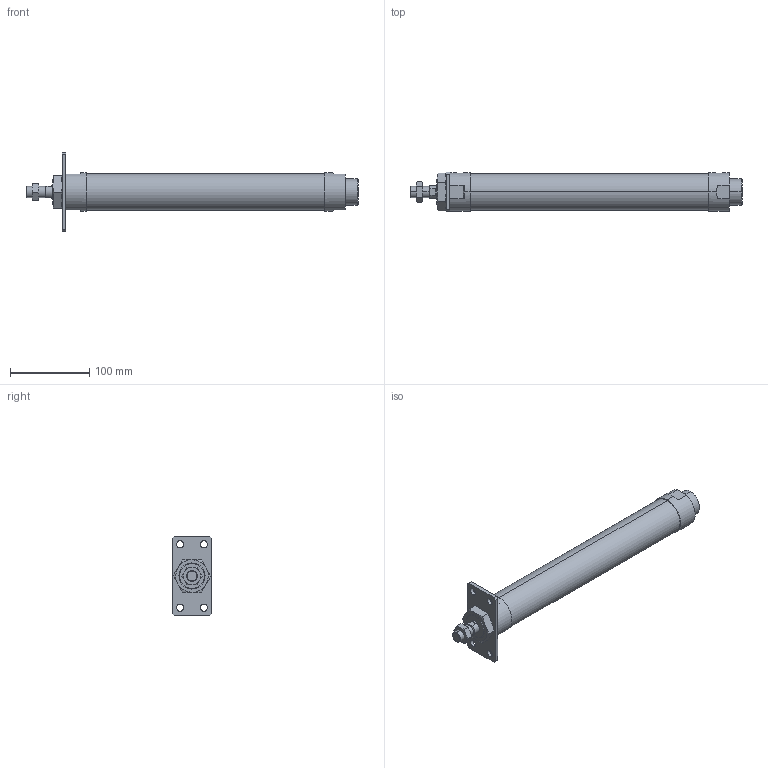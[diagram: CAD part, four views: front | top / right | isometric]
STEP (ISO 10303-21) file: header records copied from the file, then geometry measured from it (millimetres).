
FILE_DESCRIPTION (( 'STEP AP203' ), '1' );
FILE_NAME ('J#2-40-250-A.STEP', '2016-03-08T08:07:13', ( '' ), ( '' ), 'SwSTEP 2.0', 'SolidWorks 2014', '' );
FILE_SCHEMA (( 'CONFIG_CONTROL_DESIGN' ));
Length unit declared in the file: millimetre
Products named in the file (5): J#2-40-A; J#2-40-250; J#2-40-250-A
Assembly tree (4 placements, depth 2):
  J#2-40-250-A
    J#2-40-250
    (unnamed)
    (unnamed)
    J#2-40-A
Bounding box: 419 x 50 x 100 mm (x, y, z)
Volume: 650744.6 mm3; surface area: 76619.1 mm2
Topology: 4 solids, 4 shells, 114 faces, 264 edges, 161 vertices
Faces by surface type: plane 43, cylinder 32, torus 24, cone 15
Entity records: 4198 total; most frequent: CARTESIAN_POINT 1133, DIRECTION 537, ORIENTED_EDGE 520, EDGE_CURVE 260, AXIS2_PLACEMENT_3D 219, VERTEX_POINT 161, EDGE_LOOP 135, ADVANCED_FACE 114
